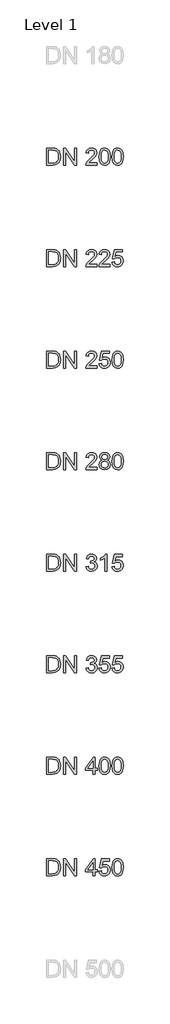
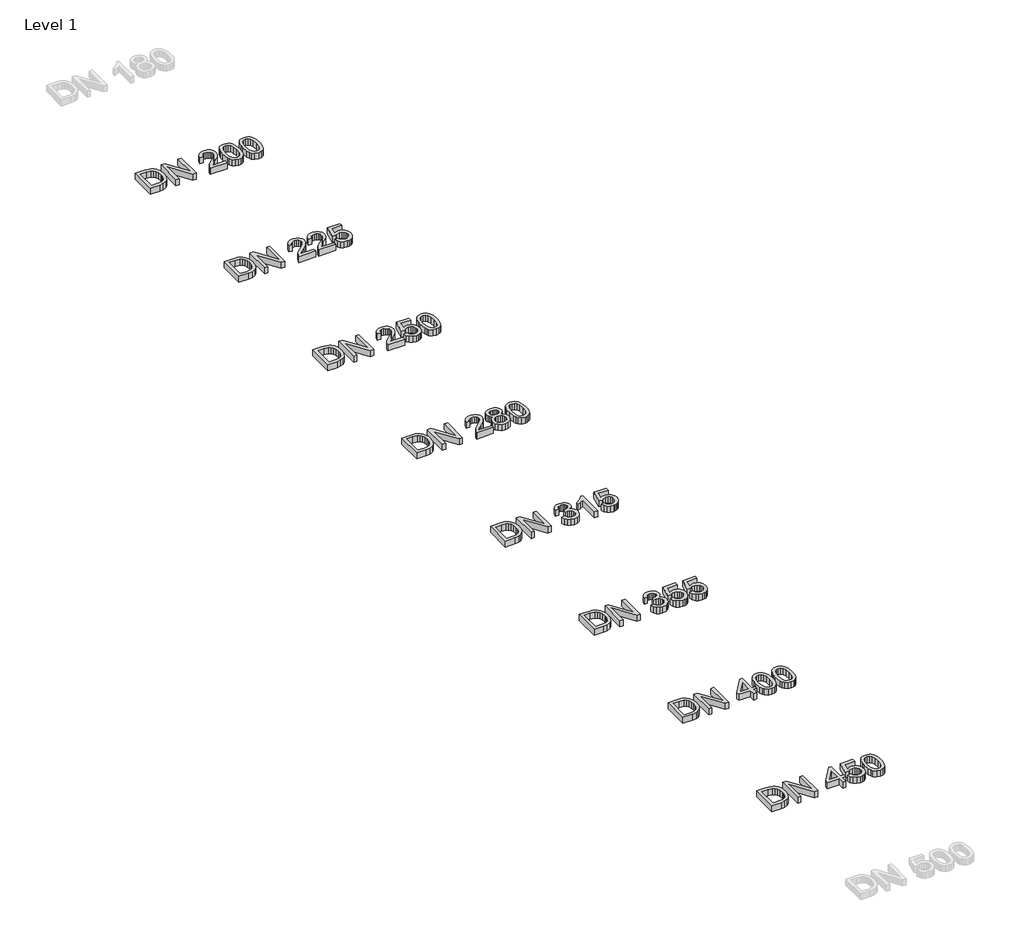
# One storey, part 9 of 17: 8 proxies.
"""IFC4 building model written with IfcOpenShell, lengths in millimetres."""

import ifcopenshell
import ifcopenshell.guid

model = None  # the IFC model being written
_history = None  # IfcOwnerHistory: only IFC2X3 demands one
_inside = {}  # id of a spatial element -> (the spatial element, [elements in it])
_under = {}  # id of a project, library or spatial element -> (it, [spatial elements below it])
_declared = {}  # id of a project -> (the project, [libraries it declares])
_typed = {}  # id of a type object -> (the type object, [elements of that type])
_made_of = {}  # id of a material, layer set ... -> (it, [elements and type objects made of it])


def new_model(schema):
    """Start an empty IFC model of exactly this schema.

    Asked for "IFC4X3", IfcOpenShell would pick the latest addendum, in which some entities
    have other attributes; the version numbers below select the first issue.
    IFC2X3 requires an IfcOwnerHistory on every rooted entity: one is made here for all.
    """
    global model, _history
    if schema == "IFC4X3":
        model = ifcopenshell.file(schema_version=(4, 3, 0, 0))
    else:
        model = ifcopenshell.file(schema=schema)
    _inside.clear()
    _under.clear()
    _declared.clear()
    _typed.clear()
    _made_of.clear()
    _history = None
    if model.schema == "IFC2X3":
        org = make("IfcOrganization", Name="unknown")
        user = make(
            "IfcPersonAndOrganization",
            ThePerson=make("IfcPerson", FamilyName="unknown"),
            TheOrganization=org,
        )
        app = make(
            "IfcApplication",
            ApplicationDeveloper=org,
            Version="unknown",
            ApplicationFullName="unknown",
            ApplicationIdentifier="unknown",
        )
        _history = make(
            "IfcOwnerHistory",
            OwningUser=user,
            OwningApplication=app,
            ChangeAction="ADDED",
            CreationDate=0,
        )
    return model


def make(cls, **values):
    """One entity of the class cls with the attributes given. An attribute that is None is left unset."""
    return model.create_entity(
        cls, **{name: value for name, value in values.items() if value is not None}
    )


def rooted(cls, **values):
    """An entity with a GlobalId (a new one), such as an element, a storey or a relation."""
    return make(cls, GlobalId=ifcopenshell.guid.new(), OwnerHistory=_history, **values)


def si_unit(unit_type, name, prefix=None):
    """IfcSIUnit, for example si_unit("LENGTHUNIT", "METRE", prefix="MILLI")."""
    return make("IfcSIUnit", UnitType=unit_type, Prefix=prefix, Name=name)


def assignment(units):
    """IfcUnitAssignment: the units of a project."""
    return None if units is None else make("IfcUnitAssignment", Units=units)


def point(xyz):
    """IfcCartesianPoint."""
    return None if xyz is None else make("IfcCartesianPoint", Coordinates=xyz)


def direction(xyz):
    """IfcDirection."""
    return None if xyz is None else make("IfcDirection", DirectionRatios=xyz)


def frame(location, z_axis=None, x_axis=None):
    """IfcAxis2Placement3D, a coordinate frame: its origin and axes. An axis left out is left unset."""
    return make(
        "IfcAxis2Placement3D",
        Location=point(location),
        Axis=direction(z_axis),
        RefDirection=direction(x_axis),
    )


def origin():
    """The frame at (0, 0, 0) with its axes left unset."""
    return frame((0.0, 0.0, 0.0))


def origin_with_axes():
    """The frame at (0, 0, 0) with the z axis (0, 0, 1) and the x axis (1, 0, 0) written out."""
    return frame((0.0, 0.0, 0.0), z_axis=(0.0, 0.0, 1.0), x_axis=(1.0, 0.0, 0.0))


def place(relative_to, where):
    """IfcLocalPlacement: puts the frame where relative to a parent placement (None: the world)."""
    return make(
        "IfcLocalPlacement", PlacementRelTo=relative_to, RelativePlacement=where
    )


def context(
    kind, dimensions, precision=None, world=None, true_north=None, identifier=None
):
    """IfcGeometricRepresentationContext, for example the 3D "Model" context."""
    return make(
        "IfcGeometricRepresentationContext",
        ContextIdentifier=identifier,
        ContextType=kind,
        CoordinateSpaceDimension=dimensions,
        Precision=precision,
        WorldCoordinateSystem=world,
        TrueNorth=true_north,
    )


def project(units=None, contexts=None):
    """IfcProject with its units and contexts."""
    return rooted(
        "IfcProject",
        Name="project",
        RepresentationContexts=contexts,
        UnitsInContext=assignment(units),
    )


def spatial(cls, under=None, at=None, **own):
    """A site, building, storey or space (cls), placed at a placement, below another one or the project."""
    s = rooted(cls, ObjectPlacement=at, **own)
    if under is not None:
        _under.setdefault(under.id(), (under, []))[1].append(s)
    return s


def polyline(points):
    """IfcPolyline through the points."""
    return make("IfcPolyline", Points=[point(p) for p in points])


def outline(outer, holes=None, kind="AREA"):
    """IfcArbitraryClosedProfileDef: a profile drawn as a closed curve; with holes, ...WithVoids."""
    if holes is None:
        return make("IfcArbitraryClosedProfileDef", ProfileType=kind, OuterCurve=outer)
    return make(
        "IfcArbitraryProfileDefWithVoids",
        ProfileType=kind,
        OuterCurve=outer,
        InnerCurves=holes,
    )


def extrude(swept, where, along, depth):
    """IfcExtrudedAreaSolid: the profile swept, set in the frame where, extruded along a direction by depth."""
    return make(
        "IfcExtrudedAreaSolid",
        SweptArea=swept,
        Position=where,
        ExtrudedDirection=direction(along),
        Depth=depth,
    )


def shape(context_of_items, identifier, shape_type, items):
    """IfcShapeRepresentation: the items that make up one representation, for example the "Body"."""
    return make(
        "IfcShapeRepresentation",
        ContextOfItems=context_of_items,
        RepresentationIdentifier=identifier,
        RepresentationType=shape_type,
        Items=items,
    )


def made_of(thing, what):
    """Note that an element or type object is made of a material, layer set ...; save() writes the relation."""
    if what is not None:
        _made_of.setdefault(what.id(), (what, []))[1].append(thing)
    return thing


def element(
    cls,
    number,
    at=None,
    inside=None,
    cuts=None,
    type_object=None,
    material=None,
    context=None,
    identifier="Body",
    shape_type=None,
    held_by="IfcProductDefinitionShape",
    body=None,
    shapes=None,
    **own,
):
    """One element of the class cls, such as IfcWall. Its Tag is "e" and its number.

    at: its placement. inside: the storey or other place that contains it. cuts: it is an
    opening in that element (IfcRelVoidsElement). A single representation is given by context,
    identifier, shape_type and body (its items); several are given by shapes. held_by: the class
    of the entity that holds the representations. save() writes the other relations.
    """
    e = rooted(cls, Tag="e%d" % number, ObjectPlacement=at, **own)
    if body is not None:
        shapes = [shape(context, identifier, shape_type, body)]
    if shapes is not None:
        e.Representation = make(held_by, Representations=shapes)
    if inside is not None:
        _inside.setdefault(inside.id(), (inside, []))[1].append(e)
    if cuts is not None:
        rooted(
            "IfcRelVoidsElement", RelatingBuildingElement=cuts, RelatedOpeningElement=e
        )
    if type_object is not None:
        _typed.setdefault(type_object.id(), (type_object, []))[1].append(e)
    return made_of(e, material)


def aggregate(whole, parts):
    """IfcRelAggregates: a whole, such as a stair, and the parts it consists of."""
    return rooted("IfcRelAggregates", RelatingObject=whole, RelatedObjects=parts)


def save(model, path):
    """Write the relations noted so far, then the file.

    IfcRelAggregates (storeys below a building ...), IfcRelContainedInSpatialStructure (elements
    in a storey), IfcRelDefinesByType, IfcRelAssociatesMaterial and IfcRelDeclares: one each for
    every whole, place, type object, material and project.
    """
    for whole, parts in _under.values():
        aggregate(whole, parts)
    for where, things in _inside.values():
        rooted(
            "IfcRelContainedInSpatialStructure",
            RelatedElements=things,
            RelatingStructure=where,
        )
    for kind, things in _typed.values():
        rooted("IfcRelDefinesByType", RelatedObjects=things, RelatingType=kind)
    for what, things in _made_of.values():
        rooted("IfcRelAssociatesMaterial", RelatedObjects=things, RelatingMaterial=what)
    for by, libraries in _declared.values():
        rooted("IfcRelDeclares", RelatingContext=by, RelatedDefinitions=libraries)
    model.write(path)


model = new_model("IFC4")

# Units and contexts
model_context = context("Model", 3, world=origin())
ifc_project = project(units=[si_unit("LENGTHUNIT", "METRE", prefix="MILLI")], contexts=[model_context])

# Site, building, storey
site = spatial("IfcSite", under=ifc_project)
building = spatial("IfcBuilding", under=site)
storey = spatial("IfcBuildingStorey", under=building, Name="Level 1", Elevation=0.0)

# Proxies
placement = place(None, origin())
element("IfcBuildingElementProxy", 1, Name="200mm Arial", ObjectType="200mm Arial", at=placement, inside=storey, context=model_context, shape_type="SweptSolid", body=[
    extrude(outline(polyline([(32539.3076926, -43713.949573), (32539.3076926, -43513.0369527), (32608.6166605, -43513.0369527), (32644.4728923, -43515.9309577), (32660.4880218, -43521.5105013), (32674.0015538, -43530.302881), (32687.8952305, -43545.606772), (32697.7912562, -43564.6385338), (32703.7141563, -43587.0302846), (32705.6884563, -43612.4141423), (32700.3419047, -43652.9547382), (32686.6076435, -43682.2136195), (32668.2625947, -43700.436041), (32644.2521631, -43710.5160077), (32611.9521239, -43713.949573), (32539.3076926, -43713.949573)]), holes=[polyline([(32564.4217702, -43688.8354954), (32608.8619152, -43688.8354954), (32641.1864798, -43685.2057264), (32659.8258342, -43674.9540815), (32668.5507689, -43664.0831685), (32675.1051998, -43650.0116822), (32679.207084, -43632.6783089), (32680.5743788, -43612.0217348), (32677.8949716, -43584.6513144), (32669.85675, -43564.4423301), (32657.9802929, -43550.5609162), (32643.7861793, -43542.1732067), (32608.1752021, -43538.1510302), (32564.4217702, -43538.1510302), (32564.4217702, -43688.8354954)])]), origin_with_axes(), (0.0, 0.0, 1.0), 50.0),
    extrude(outline(polyline([(32740.2203129, -43713.949573), (32740.2203129, -43513.0369527), (32767.100224, -43513.0369527), (32872.06922, -43672.2072292), (32872.06922, -43513.0369527), (32897.1832975, -43513.0369527), (32897.1832975, -43713.949573), (32870.3033864, -43713.949573), (32765.3343905, -43554.7302454), (32765.3343905, -43713.949573), (32740.2203129, -43713.949573)])), origin_with_axes(), (0.0, 0.0, 1.0), 50.0),
    extrude(outline(polyline([(33138.9062938, -43688.8354954), (33138.9062938, -43713.949573), (33007.0573868, -43713.949573), (33009.7551881, -43696.6345937), (33025.0100281, -43669.9754118), (33056.451676, -43640.8636832), (33099.8127005, -43599.0232377), (33107.9428926, -43584.6022634), (33110.6529566, -43570.5736967), (33108.0961767, -43557.9982638), (33100.4258371, -43547.5442838), (33088.6352192, -43540.4993436), (33073.7176043, -43538.1510302), (33058.0519627, -43540.4441613), (33045.8812, -43547.3235546), (33038.0269194, -43558.2496499), (33035.310724, -43572.6828868), (33010.1966465, -43569.5436271), (33016.2850935, -43545.2511527), (33029.4491375, -43527.5069778), (33049.0020656, -43516.6544589), (33074.2571645, -43513.0369527), (33099.6962045, -43517.0591291), (33119.2123444, -43529.1256586), (33131.6283617, -43547.1518763), (33135.7670341, -43569.0531178), (33131.3033993, -43592.8673456), (33116.4654921, -43617.4909138), (33080.486633, -43651.9001431), (33051.5956336, -43676.0577275), (33040.2648682, -43688.8354954), (33138.9062938, -43688.8354954)])), origin_with_axes(), (0.0, 0.0, 1.0), 50.0),
    extrude(outline(polyline([(33164.0203714, -43615.1119436), (33165.8659127, -43582.9529258), (33171.4025367, -43557.3054194), (33180.5750612, -43537.7770168), (33193.3283037, -43523.9753106), (33209.7542347, -43515.7715422), (33229.9448249, -43513.0369527), (33245.4203942, -43514.6556334), (33259.2772827, -43519.5116758), (33270.8655655, -43527.4150073), (33279.5353179, -43538.1755557), (33291.3075417, -43567.9004209), (33295.8692784, -43615.1119436), (33294.0421312, -43647.0870203), (33288.5606895, -43672.6732131), (33279.4433474, -43692.2200098), (33266.708499, -43706.0768983), (33250.2457797, -43714.335849), (33229.9448249, -43717.0888326), (33203.8497287, -43712.3063667), (33184.0331519, -43697.9589689), (33175.2775604, -43682.8298218), (33169.0235665, -43663.9789353), (33164.0203714, -43615.1119436)]), holes=[polyline([(33189.1344489, -43615.0628927), (33192.0775049, -43654.5672876), (33200.9066728, -43677.4311536), (33214.0523227, -43688.3388547), (33229.9448249, -43691.9747551), (33245.8373271, -43688.326592), (33258.9829771, -43677.3821026), (33267.8121449, -43654.5059739), (33270.7552009, -43615.0628927), (33267.9102468, -43576.4475459), (33259.3753845, -43553.4058703), (33246.25426, -43541.9647402), (33229.6505193, -43538.1510302), (33213.9296954, -43541.5110191), (33201.2990802, -43551.5909857), (33192.1756067, -43576.0674012), (33189.1344489, -43615.0628927)])]), origin_with_axes(), (0.0, 0.0, 1.0), 50.0),
    extrude(outline(polyline([(33317.8440963, -43615.1119436), (33319.6896376, -43582.9529258), (33325.2262617, -43557.3054194), (33334.3987861, -43537.7770168), (33347.1520286, -43523.9753106), (33363.5779597, -43515.7715422), (33383.7685498, -43513.0369527), (33399.2441191, -43514.6556334), (33413.1010076, -43519.5116758), (33424.6892904, -43527.4150073), (33433.3590428, -43538.1755557), (33445.1312666, -43567.9004209), (33449.6930034, -43615.1119436), (33447.8658561, -43647.0870203), (33442.3844144, -43672.6732131), (33433.2670723, -43692.2200098), (33420.5322239, -43706.0768983), (33404.0695046, -43714.335849), (33383.7685498, -43717.0888326), (33357.6734536, -43712.3063667), (33337.8568768, -43697.9589689), (33329.1012853, -43682.8298218), (33322.8472914, -43663.9789353), (33317.8440963, -43615.1119436)]), holes=[polyline([(33342.9581738, -43615.0628927), (33345.9012298, -43654.5672876), (33354.7303977, -43677.4311536), (33367.8760476, -43688.3388547), (33383.7685498, -43691.9747551), (33399.661052, -43688.326592), (33412.806702, -43677.3821026), (33421.6358699, -43654.5059739), (33424.5789258, -43615.0628927), (33421.7339717, -43576.4475459), (33413.1991094, -43553.4058703), (33400.0779849, -43541.9647402), (33383.4742442, -43538.1510302), (33367.7534203, -43541.5110191), (33355.1228051, -43551.5909857), (33345.9993317, -43576.0674012), (33342.9581738, -43615.0628927)])]), origin_with_axes(), (0.0, 0.0, 1.0), 50.0),
])
element("IfcBuildingElementProxy", 2, Name="200mm Arial", ObjectType="200mm Arial", at=placement, inside=storey, context=model_context, shape_type="SweptSolid", body=[
    extrude(outline(polyline([(32539.3076926, -46113.949573), (32539.3076926, -45913.0369527), (32608.6166605, -45913.0369527), (32644.4728923, -45915.9309577), (32660.4880218, -45921.5105013), (32674.0015538, -45930.302881), (32687.8952305, -45945.606772), (32697.7912562, -45964.6385338), (32703.7141563, -45987.0302846), (32705.6884563, -46012.4141423), (32700.3419047, -46052.9547382), (32686.6076435, -46082.2136195), (32668.2625947, -46100.436041), (32644.2521631, -46110.5160077), (32611.9521239, -46113.949573), (32539.3076926, -46113.949573)]), holes=[polyline([(32564.4217702, -46088.8354954), (32608.8619152, -46088.8354954), (32641.1864798, -46085.2057264), (32659.8258342, -46074.9540815), (32668.5507689, -46064.0831685), (32675.1051998, -46050.0116822), (32679.207084, -46032.6783089), (32680.5743788, -46012.0217348), (32677.8949716, -45984.6513144), (32669.85675, -45964.4423301), (32657.9802929, -45950.5609162), (32643.7861793, -45942.1732067), (32608.1752021, -45938.1510302), (32564.4217702, -45938.1510302), (32564.4217702, -46088.8354954)])]), origin_with_axes(), (0.0, 0.0, 1.0), 50.0),
    extrude(outline(polyline([(32740.2203129, -46113.949573), (32740.2203129, -45913.0369527), (32767.100224, -45913.0369527), (32872.06922, -46072.2072292), (32872.06922, -45913.0369527), (32897.1832975, -45913.0369527), (32897.1832975, -46113.949573), (32870.3033864, -46113.949573), (32765.3343905, -45954.7302454), (32765.3343905, -46113.949573), (32740.2203129, -46113.949573)])), origin_with_axes(), (0.0, 0.0, 1.0), 50.0),
    extrude(outline(polyline([(33138.9062938, -46088.8354954), (33138.9062938, -46113.949573), (33007.0573868, -46113.949573), (33009.7551881, -46096.6345937), (33025.0100281, -46069.9754118), (33056.451676, -46040.8636832), (33099.8127005, -45999.0232377), (33107.9428926, -45984.6022634), (33110.6529566, -45970.5736967), (33108.0961767, -45957.9982638), (33100.4258371, -45947.5442838), (33088.6352192, -45940.4993436), (33073.7176043, -45938.1510302), (33058.0519627, -45940.4441613), (33045.8812, -45947.3235546), (33038.0269194, -45958.2496499), (33035.310724, -45972.6828868), (33010.1966465, -45969.5436271), (33016.2850935, -45945.2511527), (33029.4491375, -45927.5069778), (33049.0020656, -45916.6544589), (33074.2571645, -45913.0369527), (33099.6962045, -45917.0591291), (33119.2123444, -45929.1256586), (33131.6283617, -45947.1518763), (33135.7670341, -45969.0531178), (33131.3033993, -45992.8673456), (33116.4654921, -46017.4909138), (33080.486633, -46051.9001431), (33051.5956336, -46076.0577275), (33040.2648682, -46088.8354954), (33138.9062938, -46088.8354954)])), origin_with_axes(), (0.0, 0.0, 1.0), 50.0),
    extrude(outline(polyline([(33164.0203714, -46060.5821582), (33189.1344489, -46057.4428985), (33193.7452366, -46072.5199289), (33201.7895895, -46083.3172655), (33213.2307196, -46089.8103827), (33228.0318385, -46091.9747551), (33246.0335308, -46088.9642541), (33259.5225373, -46079.9327511), (33267.947035, -46065.9225785), (33270.7552009, -46047.9760685), (33268.1248446, -46031.0780222), (33260.2337758, -46018.1531014), (33247.0206809, -46009.9493329), (33228.424246, -46007.2147434), (33206.3758518, -46011.5802764), (33192.2737086, -46022.9110419), (33167.1596311, -46019.7717822), (33189.1344489, -45916.1762123), (33286.4514994, -45916.1762123), (33286.4514994, -45941.2902899), (33209.441535, -45941.2902899), (33198.6993808, -45996.619742), (33216.6397594, -45985.7304349), (33235.4385294, -45982.1006659), (33258.9032693, -45986.601089), (33278.3826209, -46000.1023582), (33291.4976141, -46020.6792244), (33295.8692784, -46046.4064386), (33291.9329411, -46071.5205162), (33280.123929, -46093.0048247), (33269.6883431, -46103.5415782), (33257.5114491, -46111.0678307), (33243.5932469, -46115.5835821), (33227.9337367, -46117.0888326), (33203.2672489, -46113.2199403), (33183.616219, -46101.6132634), (33170.1456066, -46083.6177025), (33164.0203714, -46060.5821582)])), origin_with_axes(), (0.0, 0.0, 1.0), 50.0),
    extrude(outline(polyline([(33317.8440963, -46015.1119436), (33319.6896376, -45982.9529258), (33325.2262617, -45957.3054194), (33334.3987861, -45937.7770168), (33347.1520286, -45923.9753106), (33363.5779597, -45915.7715422), (33383.7685498, -45913.0369527), (33399.2441191, -45914.6556334), (33413.1010076, -45919.5116758), (33424.6892904, -45927.4150073), (33433.3590428, -45938.1755557), (33445.1312666, -45967.9004209), (33449.6930034, -46015.1119436), (33447.8658561, -46047.0870203), (33442.3844144, -46072.6732131), (33433.2670723, -46092.2200098), (33420.5322239, -46106.0768983), (33404.0695046, -46114.335849), (33383.7685498, -46117.0888326), (33357.6734536, -46112.3063667), (33337.8568768, -46097.9589689), (33329.1012853, -46082.8298218), (33322.8472914, -46063.9789353), (33317.8440963, -46015.1119436)]), holes=[polyline([(33342.9581738, -46015.0628927), (33345.9012298, -46054.5672876), (33354.7303977, -46077.4311536), (33367.8760476, -46088.3388547), (33383.7685498, -46091.9747551), (33399.661052, -46088.326592), (33412.806702, -46077.3821026), (33421.6358699, -46054.5059739), (33424.5789258, -46015.0628927), (33421.7339717, -45976.4475459), (33413.1991094, -45953.4058703), (33400.0779849, -45941.9647402), (33383.4742442, -45938.1510302), (33367.7534203, -45941.5110191), (33355.1228051, -45951.5909857), (33345.9993317, -45976.0674012), (33342.9581738, -46015.0628927)])]), origin_with_axes(), (0.0, 0.0, 1.0), 50.0),
])
element("IfcBuildingElementProxy", 3, Name="200mm Arial", ObjectType="200mm Arial", at=placement, inside=storey, context=model_context, shape_type="SweptSolid", body=[
    extrude(outline(polyline([(32539.3076926, -48513.949573), (32539.3076926, -48313.0369527), (32608.6166605, -48313.0369527), (32644.4728923, -48315.9309577), (32660.4880218, -48321.5105013), (32674.0015538, -48330.302881), (32687.8952305, -48345.606772), (32697.7912562, -48364.6385338), (32703.7141563, -48387.0302846), (32705.6884563, -48412.4141423), (32700.3419047, -48452.9547382), (32686.6076435, -48482.2136195), (32668.2625947, -48500.436041), (32644.2521631, -48510.5160077), (32611.9521239, -48513.949573), (32539.3076926, -48513.949573)]), holes=[polyline([(32564.4217702, -48488.8354954), (32608.8619152, -48488.8354954), (32641.1864798, -48485.2057264), (32659.8258342, -48474.9540815), (32668.5507689, -48464.0831685), (32675.1051998, -48450.0116822), (32679.207084, -48432.6783089), (32680.5743788, -48412.0217348), (32677.8949716, -48384.6513144), (32669.85675, -48364.4423301), (32657.9802929, -48350.5609162), (32643.7861793, -48342.1732067), (32608.1752021, -48338.1510302), (32564.4217702, -48338.1510302), (32564.4217702, -48488.8354954)])]), origin_with_axes(), (0.0, 0.0, 1.0), 50.0),
    extrude(outline(polyline([(32740.2203129, -48513.949573), (32740.2203129, -48313.0369527), (32767.100224, -48313.0369527), (32872.06922, -48472.2072292), (32872.06922, -48313.0369527), (32897.1832975, -48313.0369527), (32897.1832975, -48513.949573), (32870.3033864, -48513.949573), (32765.3343905, -48354.7302454), (32765.3343905, -48513.949573), (32740.2203129, -48513.949573)])), origin_with_axes(), (0.0, 0.0, 1.0), 50.0),
    extrude(outline(polyline([(33010.1966465, -48460.5821582), (33035.310724, -48457.4428985), (33040.9331872, -48473.2250361), (33049.1676125, -48483.8813512), (33060.4186702, -48489.9514041), (33075.0910304, -48491.9747551), (33092.3079078, -48489.1911147), (33105.6007105, -48480.8401934), (33114.0987846, -48468.3812565), (33116.931476, -48453.2735692), (33114.1233101, -48438.9323028), (33105.6988124, -48427.3011004), (33092.9455699, -48419.5939726), (33077.1511696, -48417.02493), (33059.5418847, -48419.7717822), (33062.3377879, -48394.6577047), (33066.3599644, -48394.9520102), (33081.406338, -48393.1493885), (33094.8585563, -48387.7415231), (33104.3499118, -48378.5935242), (33107.5136969, -48365.5705016), (33105.2205658, -48354.7241141), (33098.3411725, -48345.925603), (33087.8442729, -48340.0946734), (33074.6986229, -48338.1510302), (33061.5284475, -48340.1130675), (33050.7617678, -48345.9991794), (33042.9013558, -48355.809366), (33038.4499837, -48369.5436271), (33013.3359061, -48366.4043674), (33020.7303343, -48343.8532011), (33033.8882469, -48327.0164685), (33051.8899392, -48316.5318316), (33073.8157062, -48313.0369527), (33089.6039751, -48314.7598667), (33104.1046571, -48319.9286087), (33116.3306021, -48328.0833263), (33125.29466, -48338.7641669), (33130.7944958, -48351.0698196), (33132.6277745, -48364.0989736), (33130.8864663, -48376.2390794), (33125.662542, -48387.2510138), (33117.0295779, -48396.6320047), (33105.0611503, -48403.87928), (33120.7819742, -48410.2313758), (33132.4315707, -48421.0471064), (33139.6420578, -48435.7378608), (33142.0455535, -48453.7150276), (33137.2385621, -48478.191443), (33122.8175879, -48498.645682), (33101.0512365, -48512.478045), (33074.2081136, -48517.0888326), (33049.9279019, -48513.1524953), (33030.1603761, -48501.3434833), (33016.4138522, -48483.2804773), (33010.1966465, -48460.5821582)])), origin_with_axes(), (0.0, 0.0, 1.0), 50.0),
    extrude(outline(polyline([(33258.1981621, -48513.949573), (33233.0840846, -48513.949573), (33233.0840846, -48357.3789958), (33209.2943822, -48374.3260931), (33182.8559295, -48387.0057592), (33182.8559295, -48363.2651077), (33219.6686545, -48339.769711), (33233.1392669, -48326.1948653), (33242.0113543, -48313.0369527), (33258.1981621, -48313.0369527), (33258.1981621, -48513.949573)])), origin_with_axes(), (0.0, 0.0, 1.0), 50.0),
    extrude(outline(polyline([(33317.8440963, -48460.5821582), (33342.9581738, -48457.4428985), (33347.5689615, -48472.5199289), (33355.6133145, -48483.3172655), (33367.0544445, -48489.8103827), (33381.8555634, -48491.9747551), (33399.8572557, -48488.9642541), (33413.3462622, -48479.9327511), (33421.7707599, -48465.9225785), (33424.5789258, -48447.9760685), (33421.9485696, -48431.0780222), (33414.0575008, -48418.1531014), (33400.8444058, -48409.9493329), (33382.2479709, -48407.2147434), (33360.1995767, -48411.5802764), (33346.0974335, -48422.9110419), (33320.983356, -48419.7717822), (33342.9581738, -48316.1762123), (33440.2752243, -48316.1762123), (33440.2752243, -48341.2902899), (33363.26526, -48341.2902899), (33352.5231057, -48396.619742), (33370.4634843, -48385.7304349), (33389.2622543, -48382.1006659), (33412.7269942, -48386.601089), (33432.2063459, -48400.1023582), (33445.321339, -48420.6792244), (33449.6930034, -48446.4064386), (33445.756666, -48471.5205162), (33433.947654, -48493.0048247), (33423.512068, -48503.5415782), (33411.335174, -48511.0678307), (33397.4169718, -48515.5835821), (33381.7574616, -48517.0888326), (33357.0909738, -48513.2199403), (33337.4399439, -48501.6132634), (33323.9693315, -48483.6177025), (33317.8440963, -48460.5821582)])), origin_with_axes(), (0.0, 0.0, 1.0), 50.0),
])
element("IfcBuildingElementProxy", 4, Name="200mm Arial", ObjectType="200mm Arial", at=placement, inside=storey, context=model_context, shape_type="SweptSolid", body=[
    extrude(outline(polyline([(32539.3076926, -50913.949573), (32539.3076926, -50713.0369527), (32608.6166605, -50713.0369527), (32644.4728923, -50715.9309577), (32660.4880218, -50721.5105013), (32674.0015538, -50730.302881), (32687.8952305, -50745.606772), (32697.7912562, -50764.6385338), (32703.7141563, -50787.0302846), (32705.6884563, -50812.4141423), (32700.3419047, -50852.9547382), (32686.6076435, -50882.2136195), (32668.2625947, -50900.436041), (32644.2521631, -50910.5160077), (32611.9521239, -50913.949573), (32539.3076926, -50913.949573)]), holes=[polyline([(32564.4217702, -50888.8354954), (32608.8619152, -50888.8354954), (32641.1864798, -50885.2057264), (32659.8258342, -50874.9540815), (32668.5507689, -50864.0831685), (32675.1051998, -50850.0116822), (32679.207084, -50832.6783089), (32680.5743788, -50812.0217348), (32677.8949716, -50784.6513144), (32669.85675, -50764.4423301), (32657.9802929, -50750.5609162), (32643.7861793, -50742.1732067), (32608.1752021, -50738.1510302), (32564.4217702, -50738.1510302), (32564.4217702, -50888.8354954)])]), origin_with_axes(), (0.0, 0.0, 1.0), 50.0),
    extrude(outline(polyline([(32740.2203129, -50913.949573), (32740.2203129, -50713.0369527), (32767.100224, -50713.0369527), (32872.06922, -50872.2072292), (32872.06922, -50713.0369527), (32897.1832975, -50713.0369527), (32897.1832975, -50913.949573), (32870.3033864, -50913.949573), (32765.3343905, -50754.7302454), (32765.3343905, -50913.949573), (32740.2203129, -50913.949573)])), origin_with_axes(), (0.0, 0.0, 1.0), 50.0),
    extrude(outline(polyline([(33091.8173985, -50913.949573), (33091.8173985, -50866.8606776), (33000.7788674, -50866.8606776), (33000.7788674, -50841.7466), (33098.0959178, -50716.1762123), (33116.931476, -50716.1762123), (33116.931476, -50841.7466), (33142.0455535, -50841.7466), (33142.0455535, -50866.8606776), (33116.931476, -50866.8606776), (33116.931476, -50913.949573), (33091.8173985, -50913.949573)]), holes=[polyline([(33091.8173985, -50841.7466), (33091.8173985, -50764.1480245), (33031.680955, -50841.7466), (33091.8173985, -50841.7466)])]), origin_with_axes(), (0.0, 0.0, 1.0), 50.0),
    extrude(outline(polyline([(33164.0203714, -50815.1119436), (33165.8659127, -50782.9529258), (33171.4025367, -50757.3054194), (33180.5750612, -50737.7770168), (33193.3283037, -50723.9753106), (33209.7542347, -50715.7715422), (33229.9448249, -50713.0369527), (33245.4203942, -50714.6556334), (33259.2772827, -50719.5116758), (33270.8655655, -50727.4150073), (33279.5353179, -50738.1755557), (33291.3075417, -50767.9004209), (33295.8692784, -50815.1119436), (33294.0421312, -50847.0870203), (33288.5606895, -50872.6732131), (33279.4433474, -50892.2200098), (33266.708499, -50906.0768983), (33250.2457797, -50914.335849), (33229.9448249, -50917.0888326), (33203.8497287, -50912.3063667), (33184.0331519, -50897.9589689), (33175.2775604, -50882.8298218), (33169.0235665, -50863.9789353), (33164.0203714, -50815.1119436)]), holes=[polyline([(33189.1344489, -50815.0628927), (33192.0775049, -50854.5672876), (33200.9066728, -50877.4311536), (33214.0523227, -50888.3388547), (33229.9448249, -50891.9747551), (33245.8373271, -50888.326592), (33258.9829771, -50877.3821026), (33267.8121449, -50854.5059739), (33270.7552009, -50815.0628927), (33267.9102468, -50776.4475459), (33259.3753845, -50753.4058703), (33246.25426, -50741.9647402), (33229.6505193, -50738.1510302), (33213.9296954, -50741.5110191), (33201.2990802, -50751.5909857), (33192.1756067, -50776.0674012), (33189.1344489, -50815.0628927)])]), origin_with_axes(), (0.0, 0.0, 1.0), 50.0),
    extrude(outline(polyline([(33317.8440963, -50815.1119436), (33319.6896376, -50782.9529258), (33325.2262617, -50757.3054194), (33334.3987861, -50737.7770168), (33347.1520286, -50723.9753106), (33363.5779597, -50715.7715422), (33383.7685498, -50713.0369527), (33399.2441191, -50714.6556334), (33413.1010076, -50719.5116758), (33424.6892904, -50727.4150073), (33433.3590428, -50738.1755557), (33445.1312666, -50767.9004209), (33449.6930034, -50815.1119436), (33447.8658561, -50847.0870203), (33442.3844144, -50872.6732131), (33433.2670723, -50892.2200098), (33420.5322239, -50906.0768983), (33404.0695046, -50914.335849), (33383.7685498, -50917.0888326), (33357.6734536, -50912.3063667), (33337.8568768, -50897.9589689), (33329.1012853, -50882.8298218), (33322.8472914, -50863.9789353), (33317.8440963, -50815.1119436)]), holes=[polyline([(33342.9581738, -50815.0628927), (33345.9012298, -50854.5672876), (33354.7303977, -50877.4311536), (33367.8760476, -50888.3388547), (33383.7685498, -50891.9747551), (33399.661052, -50888.326592), (33412.806702, -50877.3821026), (33421.6358699, -50854.5059739), (33424.5789258, -50815.0628927), (33421.7339717, -50776.4475459), (33413.1991094, -50753.4058703), (33400.0779849, -50741.9647402), (33383.4742442, -50738.1510302), (33367.7534203, -50741.5110191), (33355.1228051, -50751.5909857), (33345.9993317, -50776.0674012), (33342.9581738, -50815.0628927)])]), origin_with_axes(), (0.0, 0.0, 1.0), 50.0),
])
element("IfcBuildingElementProxy", 5, Name="200mm Arial", ObjectType="200mm Arial", at=placement, inside=storey, context=model_context, shape_type="SweptSolid", body=[
    extrude(outline(polyline([(32539.3076926, -44913.949573), (32539.3076926, -44713.0369527), (32608.6166605, -44713.0369527), (32644.4728923, -44715.9309577), (32660.4880218, -44721.5105013), (32674.0015538, -44730.302881), (32687.8952305, -44745.606772), (32697.7912562, -44764.6385338), (32703.7141563, -44787.0302846), (32705.6884563, -44812.4141423), (32700.3419047, -44852.9547382), (32686.6076435, -44882.2136195), (32668.2625947, -44900.436041), (32644.2521631, -44910.5160077), (32611.9521239, -44913.949573), (32539.3076926, -44913.949573)]), holes=[polyline([(32564.4217702, -44888.8354954), (32608.8619152, -44888.8354954), (32641.1864798, -44885.2057264), (32659.8258342, -44874.9540815), (32668.5507689, -44864.0831685), (32675.1051998, -44850.0116822), (32679.207084, -44832.6783089), (32680.5743788, -44812.0217348), (32677.8949716, -44784.6513144), (32669.85675, -44764.4423301), (32657.9802929, -44750.5609162), (32643.7861793, -44742.1732067), (32608.1752021, -44738.1510302), (32564.4217702, -44738.1510302), (32564.4217702, -44888.8354954)])]), origin_with_axes(), (0.0, 0.0, 1.0), 50.0),
    extrude(outline(polyline([(32740.2203129, -44913.949573), (32740.2203129, -44713.0369527), (32767.100224, -44713.0369527), (32872.06922, -44872.2072292), (32872.06922, -44713.0369527), (32897.1832975, -44713.0369527), (32897.1832975, -44913.949573), (32870.3033864, -44913.949573), (32765.3343905, -44754.7302454), (32765.3343905, -44913.949573), (32740.2203129, -44913.949573)])), origin_with_axes(), (0.0, 0.0, 1.0), 50.0),
    extrude(outline(polyline([(33138.9062938, -44888.8354954), (33138.9062938, -44913.949573), (33007.0573868, -44913.949573), (33009.7551881, -44896.6345937), (33025.0100281, -44869.9754118), (33056.451676, -44840.8636832), (33099.8127005, -44799.0232377), (33107.9428926, -44784.6022634), (33110.6529566, -44770.5736967), (33108.0961767, -44757.9982638), (33100.4258371, -44747.5442838), (33088.6352192, -44740.4993436), (33073.7176043, -44738.1510302), (33058.0519627, -44740.4441613), (33045.8812, -44747.3235546), (33038.0269194, -44758.2496499), (33035.310724, -44772.6828868), (33010.1966465, -44769.5436271), (33016.2850935, -44745.2511527), (33029.4491375, -44727.5069778), (33049.0020656, -44716.6544589), (33074.2571645, -44713.0369527), (33099.6962045, -44717.0591291), (33119.2123444, -44729.1256586), (33131.6283617, -44747.1518763), (33135.7670341, -44769.0531178), (33131.3033993, -44792.8673456), (33116.4654921, -44817.4909138), (33080.486633, -44851.9001431), (33051.5956336, -44876.0577275), (33040.2648682, -44888.8354954), (33138.9062938, -44888.8354954)])), origin_with_axes(), (0.0, 0.0, 1.0), 50.0),
    extrude(outline(polyline([(33292.7300188, -44888.8354954), (33292.7300188, -44913.949573), (33160.8811117, -44913.949573), (33163.578913, -44896.6345937), (33178.833753, -44869.9754118), (33210.2754009, -44840.8636832), (33253.6364254, -44799.0232377), (33261.7666175, -44784.6022634), (33264.4766815, -44770.5736967), (33261.9199017, -44757.9982638), (33254.2495621, -44747.5442838), (33242.4589441, -44740.4993436), (33227.5413292, -44738.1510302), (33211.8756876, -44740.4441613), (33199.7049249, -44747.3235546), (33191.8506443, -44758.2496499), (33189.1344489, -44772.6828868), (33164.0203714, -44769.5436271), (33170.1088184, -44745.2511527), (33183.2728625, -44727.5069778), (33202.8257905, -44716.6544589), (33228.0808895, -44713.0369527), (33253.5199294, -44717.0591291), (33273.0360693, -44729.1256586), (33285.4520866, -44747.1518763), (33289.5907591, -44769.0531178), (33285.1271242, -44792.8673456), (33270.289217, -44817.4909138), (33234.3103579, -44851.9001431), (33205.4193586, -44876.0577275), (33194.0885931, -44888.8354954), (33292.7300188, -44888.8354954)])), origin_with_axes(), (0.0, 0.0, 1.0), 50.0),
    extrude(outline(polyline([(33317.8440963, -44860.5821582), (33342.9581738, -44857.4428985), (33347.5689615, -44872.5199289), (33355.6133145, -44883.3172655), (33367.0544445, -44889.8103827), (33381.8555634, -44891.9747551), (33399.8572557, -44888.9642541), (33413.3462622, -44879.9327511), (33421.7707599, -44865.9225785), (33424.5789258, -44847.9760685), (33421.9485696, -44831.0780222), (33414.0575008, -44818.1531014), (33400.8444058, -44809.9493329), (33382.2479709, -44807.2147434), (33360.1995767, -44811.5802764), (33346.0974335, -44822.9110419), (33320.983356, -44819.7717822), (33342.9581738, -44716.1762123), (33440.2752243, -44716.1762123), (33440.2752243, -44741.2902899), (33363.26526, -44741.2902899), (33352.5231057, -44796.619742), (33370.4634843, -44785.7304349), (33389.2622543, -44782.1006659), (33412.7269942, -44786.601089), (33432.2063459, -44800.1023582), (33445.321339, -44820.6792244), (33449.6930034, -44846.4064386), (33445.756666, -44871.5205162), (33433.947654, -44893.0048247), (33423.512068, -44903.5415782), (33411.335174, -44911.0678307), (33397.4169718, -44915.5835821), (33381.7574616, -44917.0888326), (33357.0909738, -44913.2199403), (33337.4399439, -44901.6132634), (33323.9693315, -44883.6177025), (33317.8440963, -44860.5821582)])), origin_with_axes(), (0.0, 0.0, 1.0), 50.0),
])
element("IfcBuildingElementProxy", 6, Name="200mm Arial", ObjectType="200mm Arial", at=placement, inside=storey, context=model_context, shape_type="SweptSolid", body=[
    extrude(outline(polyline([(32539.3076926, -47313.949573), (32539.3076926, -47113.0369527), (32608.6166605, -47113.0369527), (32644.4728923, -47115.9309577), (32660.4880218, -47121.5105013), (32674.0015538, -47130.302881), (32687.8952305, -47145.606772), (32697.7912562, -47164.6385338), (32703.7141563, -47187.0302846), (32705.6884563, -47212.4141423), (32700.3419047, -47252.9547382), (32686.6076435, -47282.2136195), (32668.2625947, -47300.436041), (32644.2521631, -47310.5160077), (32611.9521239, -47313.949573), (32539.3076926, -47313.949573)]), holes=[polyline([(32564.4217702, -47288.8354954), (32608.8619152, -47288.8354954), (32641.1864798, -47285.2057264), (32659.8258342, -47274.9540815), (32668.5507689, -47264.0831685), (32675.1051998, -47250.0116822), (32679.207084, -47232.6783089), (32680.5743788, -47212.0217348), (32677.8949716, -47184.6513144), (32669.85675, -47164.4423301), (32657.9802929, -47150.5609162), (32643.7861793, -47142.1732067), (32608.1752021, -47138.1510302), (32564.4217702, -47138.1510302), (32564.4217702, -47288.8354954)])]), origin_with_axes(), (0.0, 0.0, 1.0), 50.0),
    extrude(outline(polyline([(32740.2203129, -47313.949573), (32740.2203129, -47113.0369527), (32767.100224, -47113.0369527), (32872.06922, -47272.2072292), (32872.06922, -47113.0369527), (32897.1832975, -47113.0369527), (32897.1832975, -47313.949573), (32870.3033864, -47313.949573), (32765.3343905, -47154.7302454), (32765.3343905, -47313.949573), (32740.2203129, -47313.949573)])), origin_with_axes(), (0.0, 0.0, 1.0), 50.0),
    extrude(outline(polyline([(33138.9062938, -47288.8354954), (33138.9062938, -47313.949573), (33007.0573868, -47313.949573), (33009.7551881, -47296.6345937), (33025.0100281, -47269.9754118), (33056.451676, -47240.8636832), (33099.8127005, -47199.0232377), (33107.9428926, -47184.6022634), (33110.6529566, -47170.5736967), (33108.0961767, -47157.9982638), (33100.4258371, -47147.5442838), (33088.6352192, -47140.4993436), (33073.7176043, -47138.1510302), (33058.0519627, -47140.4441613), (33045.8812, -47147.3235546), (33038.0269194, -47158.2496499), (33035.310724, -47172.6828868), (33010.1966465, -47169.5436271), (33016.2850935, -47145.2511527), (33029.4491375, -47127.5069778), (33049.0020656, -47116.6544589), (33074.2571645, -47113.0369527), (33099.6962045, -47117.0591291), (33119.2123444, -47129.1256586), (33131.6283617, -47147.1518763), (33135.7670341, -47169.0531178), (33131.3033993, -47192.8673456), (33116.4654921, -47217.4909138), (33080.486633, -47251.9001431), (33051.5956336, -47276.0577275), (33040.2648682, -47288.8354954), (33138.9062938, -47288.8354954)])), origin_with_axes(), (0.0, 0.0, 1.0), 50.0),
    extrude(outline(polyline([(33200.6123672, -47203.2906688), (33187.1662802, -47196.6687929), (33177.7301071, -47187.6924722), (33172.1566948, -47176.5456478), (33170.2988908, -47163.4122605), (33174.3455927, -47143.7796247), (33186.4856985, -47127.5560287), (33205.3580449, -47116.6667217), (33229.6014684, -47113.0369527), (33253.9920447, -47116.7525608), (33273.1096457, -47127.8993853), (33285.4704807, -47144.3804986), (33289.5907591, -47164.0989736), (33287.7574804, -47176.8092965), (33282.2576446, -47187.7660486), (33273.0299379, -47196.687187), (33260.0130466, -47203.2906688), (33275.4702218, -47211.255314), (33286.7212795, -47222.9846183), (33293.5822787, -47237.9144959), (33295.8692784, -47255.4808612), (33291.3320672, -47279.4912927), (33277.7204333, -47299.332395), (33256.7021087, -47312.6497232), (33229.9448249, -47317.0888326), (33203.1875411, -47312.6313291), (33182.1692165, -47299.2588186), (33168.5575826, -47279.227644), (33164.0203714, -47254.7941481), (33166.3993416, -47236.5472012), (33173.5362523, -47221.5376158), (33185.0632215, -47210.2804267), (33200.6123672, -47203.2906688)]), holes=[polyline([(33189.1344489, -47253.9112313), (33193.3283037, -47272.8203659), (33199.1347078, -47280.9321639), (33208.1662108, -47286.97156), (33230.1410286, -47291.9747551), (33247.2352787, -47289.3443988), (33260.0620976, -47281.45333), (33268.0819251, -47269.5032966), (33270.7552009, -47254.6960463), (33267.9960859, -47239.6374099), (33259.7187411, -47227.4237277), (33246.5976166, -47219.3303238), (33229.3071628, -47216.6325225), (33212.452036, -47219.2935356), (33199.7539758, -47227.2765749), (33191.7893306, -47239.2572652), (33189.1344489, -47253.9112313)]), polyline([(33195.4129683, -47164.1480245), (33197.6386544, -47175.110908), (33204.3157126, -47183.8664995), (33215.2479392, -47189.6054586), (33230.2391305, -47191.518445), (33244.8808339, -47189.6177213), (33255.6475136, -47183.9155504), (33262.2693896, -47175.4542645), (33264.4766815, -47165.276196), (33262.1958132, -47154.7118513), (33255.353208, -47145.974654), (33244.4393755, -47140.1069361), (33229.9448249, -47138.1510302), (33215.3583038, -47140.0640166), (33204.4628654, -47145.8029757), (33197.6754426, -47154.2152106), (33195.4129683, -47164.1480245)])]), origin_with_axes(), (0.0, 0.0, 1.0), 50.0),
    extrude(outline(polyline([(33317.8440963, -47215.1119436), (33319.6896376, -47182.9529258), (33325.2262617, -47157.3054194), (33334.3987861, -47137.7770168), (33347.1520286, -47123.9753106), (33363.5779597, -47115.7715422), (33383.7685498, -47113.0369527), (33399.2441191, -47114.6556334), (33413.1010076, -47119.5116758), (33424.6892904, -47127.4150073), (33433.3590428, -47138.1755557), (33445.1312666, -47167.9004209), (33449.6930034, -47215.1119436), (33447.8658561, -47247.0870203), (33442.3844144, -47272.6732131), (33433.2670723, -47292.2200098), (33420.5322239, -47306.0768983), (33404.0695046, -47314.335849), (33383.7685498, -47317.0888326), (33357.6734536, -47312.3063667), (33337.8568768, -47297.9589689), (33329.1012853, -47282.8298218), (33322.8472914, -47263.9789353), (33317.8440963, -47215.1119436)]), holes=[polyline([(33342.9581738, -47215.0628927), (33345.9012298, -47254.5672876), (33354.7303977, -47277.4311536), (33367.8760476, -47288.3388547), (33383.7685498, -47291.9747551), (33399.661052, -47288.326592), (33412.806702, -47277.3821026), (33421.6358699, -47254.5059739), (33424.5789258, -47215.0628927), (33421.7339717, -47176.4475459), (33413.1991094, -47153.4058703), (33400.0779849, -47141.9647402), (33383.4742442, -47138.1510302), (33367.7534203, -47141.5110191), (33355.1228051, -47151.5909857), (33345.9993317, -47176.0674012), (33342.9581738, -47215.0628927)])]), origin_with_axes(), (0.0, 0.0, 1.0), 50.0),
])
element("IfcBuildingElementProxy", 7, Name="200mm Arial", ObjectType="200mm Arial", at=placement, inside=storey, context=model_context, shape_type="SweptSolid", body=[
    extrude(outline(polyline([(32539.3076926, -49713.949573), (32539.3076926, -49513.0369527), (32608.6166605, -49513.0369527), (32644.4728923, -49515.9309577), (32660.4880218, -49521.5105013), (32674.0015538, -49530.302881), (32687.8952305, -49545.606772), (32697.7912562, -49564.6385338), (32703.7141563, -49587.0302846), (32705.6884563, -49612.4141423), (32700.3419047, -49652.9547382), (32686.6076435, -49682.2136195), (32668.2625947, -49700.436041), (32644.2521631, -49710.5160077), (32611.9521239, -49713.949573), (32539.3076926, -49713.949573)]), holes=[polyline([(32564.4217702, -49688.8354954), (32608.8619152, -49688.8354954), (32641.1864798, -49685.2057264), (32659.8258342, -49674.9540815), (32668.5507689, -49664.0831685), (32675.1051998, -49650.0116822), (32679.207084, -49632.6783089), (32680.5743788, -49612.0217348), (32677.8949716, -49584.6513144), (32669.85675, -49564.4423301), (32657.9802929, -49550.5609162), (32643.7861793, -49542.1732067), (32608.1752021, -49538.1510302), (32564.4217702, -49538.1510302), (32564.4217702, -49688.8354954)])]), origin_with_axes(), (0.0, 0.0, 1.0), 50.0),
    extrude(outline(polyline([(32740.2203129, -49713.949573), (32740.2203129, -49513.0369527), (32767.100224, -49513.0369527), (32872.06922, -49672.2072292), (32872.06922, -49513.0369527), (32897.1832975, -49513.0369527), (32897.1832975, -49713.949573), (32870.3033864, -49713.949573), (32765.3343905, -49554.7302454), (32765.3343905, -49713.949573), (32740.2203129, -49713.949573)])), origin_with_axes(), (0.0, 0.0, 1.0), 50.0),
    extrude(outline(polyline([(33010.1966465, -49660.5821582), (33035.310724, -49657.4428985), (33040.9331872, -49673.2250361), (33049.1676125, -49683.8813512), (33060.4186702, -49689.9514041), (33075.0910304, -49691.9747551), (33092.3079078, -49689.1911147), (33105.6007105, -49680.8401934), (33114.0987846, -49668.3812565), (33116.931476, -49653.2735692), (33114.1233101, -49638.9323028), (33105.6988124, -49627.3011004), (33092.9455699, -49619.5939726), (33077.1511696, -49617.02493), (33059.5418847, -49619.7717822), (33062.3377879, -49594.6577047), (33066.3599644, -49594.9520102), (33081.406338, -49593.1493885), (33094.8585563, -49587.7415231), (33104.3499118, -49578.5935242), (33107.5136969, -49565.5705016), (33105.2205658, -49554.7241141), (33098.3411725, -49545.925603), (33087.8442729, -49540.0946734), (33074.6986229, -49538.1510302), (33061.5284475, -49540.1130675), (33050.7617678, -49545.9991794), (33042.9013558, -49555.809366), (33038.4499837, -49569.5436271), (33013.3359061, -49566.4043674), (33020.7303343, -49543.8532011), (33033.8882469, -49527.0164685), (33051.8899392, -49516.5318316), (33073.8157062, -49513.0369527), (33089.6039751, -49514.7598667), (33104.1046571, -49519.9286087), (33116.3306021, -49528.0833263), (33125.29466, -49538.7641669), (33130.7944958, -49551.0698196), (33132.6277745, -49564.0989736), (33130.8864663, -49576.2390794), (33125.662542, -49587.2510138), (33117.0295779, -49596.6320047), (33105.0611503, -49603.87928), (33120.7819742, -49610.2313758), (33132.4315707, -49621.0471064), (33139.6420578, -49635.7378608), (33142.0455535, -49653.7150276), (33137.2385621, -49678.191443), (33122.8175879, -49698.645682), (33101.0512365, -49712.478045), (33074.2081136, -49717.0888326), (33049.9279019, -49713.1524953), (33030.1603761, -49701.3434833), (33016.4138522, -49683.2804773), (33010.1966465, -49660.5821582)])), origin_with_axes(), (0.0, 0.0, 1.0), 50.0),
    extrude(outline(polyline([(33164.0203714, -49660.5821582), (33189.1344489, -49657.4428985), (33193.7452366, -49672.5199289), (33201.7895895, -49683.3172655), (33213.2307196, -49689.8103827), (33228.0318385, -49691.9747551), (33246.0335308, -49688.9642541), (33259.5225373, -49679.9327511), (33267.947035, -49665.9225785), (33270.7552009, -49647.9760685), (33268.1248446, -49631.0780222), (33260.2337758, -49618.1531014), (33247.0206809, -49609.9493329), (33228.424246, -49607.2147434), (33206.3758518, -49611.5802764), (33192.2737086, -49622.9110419), (33167.1596311, -49619.7717822), (33189.1344489, -49516.1762123), (33286.4514994, -49516.1762123), (33286.4514994, -49541.2902899), (33209.441535, -49541.2902899), (33198.6993808, -49596.619742), (33216.6397594, -49585.7304349), (33235.4385294, -49582.1006659), (33258.9032693, -49586.601089), (33278.3826209, -49600.1023582), (33291.4976141, -49620.6792244), (33295.8692784, -49646.4064386), (33291.9329411, -49671.5205162), (33280.123929, -49693.0048247), (33269.6883431, -49703.5415782), (33257.5114491, -49711.0678307), (33243.5932469, -49715.5835821), (33227.9337367, -49717.0888326), (33203.2672489, -49713.2199403), (33183.616219, -49701.6132634), (33170.1456066, -49683.6177025), (33164.0203714, -49660.5821582)])), origin_with_axes(), (0.0, 0.0, 1.0), 50.0),
    extrude(outline(polyline([(33317.8440963, -49660.5821582), (33342.9581738, -49657.4428985), (33347.5689615, -49672.5199289), (33355.6133145, -49683.3172655), (33367.0544445, -49689.8103827), (33381.8555634, -49691.9747551), (33399.8572557, -49688.9642541), (33413.3462622, -49679.9327511), (33421.7707599, -49665.9225785), (33424.5789258, -49647.9760685), (33421.9485696, -49631.0780222), (33414.0575008, -49618.1531014), (33400.8444058, -49609.9493329), (33382.2479709, -49607.2147434), (33360.1995767, -49611.5802764), (33346.0974335, -49622.9110419), (33320.983356, -49619.7717822), (33342.9581738, -49516.1762123), (33440.2752243, -49516.1762123), (33440.2752243, -49541.2902899), (33363.26526, -49541.2902899), (33352.5231057, -49596.619742), (33370.4634843, -49585.7304349), (33389.2622543, -49582.1006659), (33412.7269942, -49586.601089), (33432.2063459, -49600.1023582), (33445.321339, -49620.6792244), (33449.6930034, -49646.4064386), (33445.756666, -49671.5205162), (33433.947654, -49693.0048247), (33423.512068, -49703.5415782), (33411.335174, -49711.0678307), (33397.4169718, -49715.5835821), (33381.7574616, -49717.0888326), (33357.0909738, -49713.2199403), (33337.4399439, -49701.6132634), (33323.9693315, -49683.6177025), (33317.8440963, -49660.5821582)])), origin_with_axes(), (0.0, 0.0, 1.0), 50.0),
])
element("IfcBuildingElementProxy", 8, Name="200mm Arial", ObjectType="200mm Arial", at=placement, inside=storey, context=model_context, shape_type="SweptSolid", body=[
    extrude(outline(polyline([(32539.3076926, -52113.949573), (32539.3076926, -51913.0369527), (32608.6166605, -51913.0369527), (32644.4728923, -51915.9309577), (32660.4880218, -51921.5105013), (32674.0015538, -51930.302881), (32687.8952305, -51945.606772), (32697.7912562, -51964.6385338), (32703.7141563, -51987.0302846), (32705.6884563, -52012.4141423), (32700.3419047, -52052.9547382), (32686.6076435, -52082.2136195), (32668.2625947, -52100.436041), (32644.2521631, -52110.5160077), (32611.9521239, -52113.949573), (32539.3076926, -52113.949573)]), holes=[polyline([(32564.4217702, -52088.8354954), (32608.8619152, -52088.8354954), (32641.1864798, -52085.2057264), (32659.8258342, -52074.9540815), (32668.5507689, -52064.0831685), (32675.1051998, -52050.0116822), (32679.207084, -52032.6783089), (32680.5743788, -52012.0217348), (32677.8949716, -51984.6513144), (32669.85675, -51964.4423301), (32657.9802929, -51950.5609162), (32643.7861793, -51942.1732067), (32608.1752021, -51938.1510302), (32564.4217702, -51938.1510302), (32564.4217702, -52088.8354954)])]), origin_with_axes(), (0.0, 0.0, 1.0), 50.0),
    extrude(outline(polyline([(32740.2203129, -52113.949573), (32740.2203129, -51913.0369527), (32767.100224, -51913.0369527), (32872.06922, -52072.2072292), (32872.06922, -51913.0369527), (32897.1832975, -51913.0369527), (32897.1832975, -52113.949573), (32870.3033864, -52113.949573), (32765.3343905, -51954.7302454), (32765.3343905, -52113.949573), (32740.2203129, -52113.949573)])), origin_with_axes(), (0.0, 0.0, 1.0), 50.0),
    extrude(outline(polyline([(33091.8173985, -52113.949573), (33091.8173985, -52066.8606776), (33000.7788674, -52066.8606776), (33000.7788674, -52041.7466), (33098.0959178, -51916.1762123), (33116.931476, -51916.1762123), (33116.931476, -52041.7466), (33142.0455535, -52041.7466), (33142.0455535, -52066.8606776), (33116.931476, -52066.8606776), (33116.931476, -52113.949573), (33091.8173985, -52113.949573)]), holes=[polyline([(33091.8173985, -52041.7466), (33091.8173985, -51964.1480245), (33031.680955, -52041.7466), (33091.8173985, -52041.7466)])]), origin_with_axes(), (0.0, 0.0, 1.0), 50.0),
    extrude(outline(polyline([(33164.0203714, -52060.5821582), (33189.1344489, -52057.4428985), (33193.7452366, -52072.5199289), (33201.7895895, -52083.3172655), (33213.2307196, -52089.8103827), (33228.0318385, -52091.9747551), (33246.0335308, -52088.9642541), (33259.5225373, -52079.9327511), (33267.947035, -52065.9225785), (33270.7552009, -52047.9760685), (33268.1248446, -52031.0780222), (33260.2337758, -52018.1531014), (33247.0206809, -52009.9493329), (33228.424246, -52007.2147434), (33206.3758518, -52011.5802764), (33192.2737086, -52022.9110419), (33167.1596311, -52019.7717822), (33189.1344489, -51916.1762123), (33286.4514994, -51916.1762123), (33286.4514994, -51941.2902899), (33209.441535, -51941.2902899), (33198.6993808, -51996.619742), (33216.6397594, -51985.7304349), (33235.4385294, -51982.1006659), (33258.9032693, -51986.601089), (33278.3826209, -52000.1023582), (33291.4976141, -52020.6792244), (33295.8692784, -52046.4064386), (33291.9329411, -52071.5205162), (33280.123929, -52093.0048247), (33269.6883431, -52103.5415782), (33257.5114491, -52111.0678307), (33243.5932469, -52115.5835821), (33227.9337367, -52117.0888326), (33203.2672489, -52113.2199403), (33183.616219, -52101.6132634), (33170.1456066, -52083.6177025), (33164.0203714, -52060.5821582)])), origin_with_axes(), (0.0, 0.0, 1.0), 50.0),
    extrude(outline(polyline([(33317.8440963, -52015.1119436), (33319.6896376, -51982.9529258), (33325.2262617, -51957.3054194), (33334.3987861, -51937.7770168), (33347.1520286, -51923.9753106), (33363.5779597, -51915.7715422), (33383.7685498, -51913.0369527), (33399.2441191, -51914.6556334), (33413.1010076, -51919.5116758), (33424.6892904, -51927.4150073), (33433.3590428, -51938.1755557), (33445.1312666, -51967.9004209), (33449.6930034, -52015.1119436), (33447.8658561, -52047.0870203), (33442.3844144, -52072.6732131), (33433.2670723, -52092.2200098), (33420.5322239, -52106.0768983), (33404.0695046, -52114.335849), (33383.7685498, -52117.0888326), (33357.6734536, -52112.3063667), (33337.8568768, -52097.9589689), (33329.1012853, -52082.8298218), (33322.8472914, -52063.9789353), (33317.8440963, -52015.1119436)]), holes=[polyline([(33342.9581738, -52015.0628927), (33345.9012298, -52054.5672876), (33354.7303977, -52077.4311536), (33367.8760476, -52088.3388547), (33383.7685498, -52091.9747551), (33399.661052, -52088.326592), (33412.806702, -52077.3821026), (33421.6358699, -52054.5059739), (33424.5789258, -52015.0628927), (33421.7339717, -51976.4475459), (33413.1991094, -51953.4058703), (33400.0779849, -51941.9647402), (33383.4742442, -51938.1510302), (33367.7534203, -51941.5110191), (33355.1228051, -51951.5909857), (33345.9993317, -51976.0674012), (33342.9581738, -52015.0628927)])]), origin_with_axes(), (0.0, 0.0, 1.0), 50.0),
])

save(model, "model.ifc")
